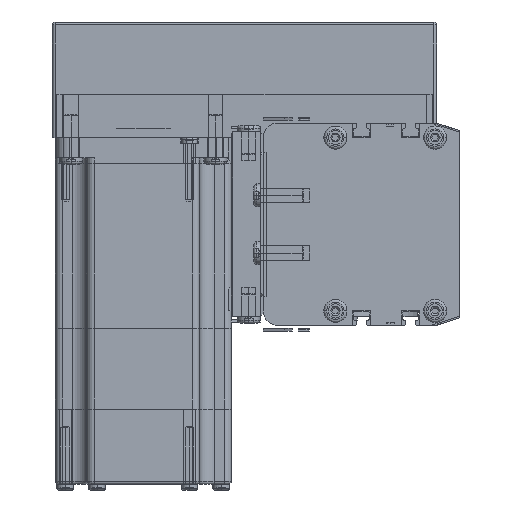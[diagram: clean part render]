
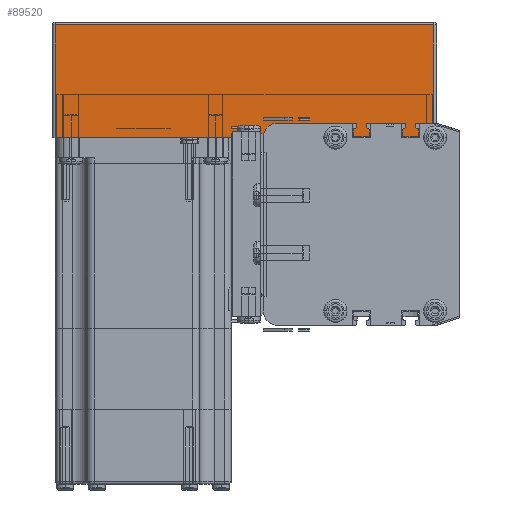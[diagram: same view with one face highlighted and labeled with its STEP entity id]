
A CAD part, left-side view. The second image highlights one B-rep face of the part: STEP entity #89520.
In plain terms, the highlighted planar face has unit normal (-1, 0, 0) as drawn and (0, -1, 0) by its records, which use the part's own axes.
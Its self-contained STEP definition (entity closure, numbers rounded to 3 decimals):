
#88210 = EDGE_CURVE ( 'NONE', #88334, #88336, #109941, .T. ) ;
#88334 = VERTEX_POINT ( 'NONE', #111607 ) ;
#88336 = VERTEX_POINT ( 'NONE', #111603 ) ;
#89217 = EDGE_CURVE ( 'NONE', #88336, #89507, #113626, .T. ) ;
#89392 = ORIENTED_EDGE ( 'NONE', *, *, #89532, .T. ) ;
#89435 = ORIENTED_EDGE ( 'NONE', *, *, #89217, .T. ) ;
#89468 = EDGE_LOOP ( 'NONE', ( #89529, #89392, #89524, #89435 ) ) ;
#89484 = EDGE_CURVE ( 'NONE', #89507, #89510, #114872, .T. ) ;
#89507 = VERTEX_POINT ( 'NONE', #115022 ) ;
#89510 = VERTEX_POINT ( 'NONE', #114873 ) ;
#89520 = ADVANCED_FACE ( 'NONE', ( #115005 ), #114886, .F. ) ;
#89524 = ORIENTED_EDGE ( 'NONE', *, *, #88210, .T. ) ;
#89529 = ORIENTED_EDGE ( 'NONE', *, *, #89484, .T. ) ;
#89532 = EDGE_CURVE ( 'NONE', #89510, #88334, #115184, .T. ) ;
#109936 = DIRECTION ( 'NONE',  ( 1., 0., 0. ) ) ;
#109938 = VECTOR ( 'NONE', #109936, 1000. ) ;
#109939 = CARTESIAN_POINT ( 'NONE',  ( 0., 0., 0. ) ) ;
#109941 = LINE ( 'NONE', #109939, #109938 ) ;
#111603 = CARTESIAN_POINT ( 'NONE',  ( 132., 0., 0. ) ) ;
#111607 = CARTESIAN_POINT ( 'NONE',  ( 1., 0., 0. ) ) ;
#113626 = LINE ( 'NONE', #113809, #113796 ) ;
#113794 = DIRECTION ( 'NONE',  ( 0., 0., 1. ) ) ;
#113796 = VECTOR ( 'NONE', #113794, 1000. ) ;
#113809 = CARTESIAN_POINT ( 'NONE',  ( 132., 0., 40. ) ) ;
#114828 = DIRECTION ( 'NONE',  ( 0., 0., 1. ) ) ;
#114829 = DIRECTION ( 'NONE',  ( 0., 1., 0. ) ) ;
#114833 = CARTESIAN_POINT ( 'NONE',  ( 1., 0., 40. ) ) ;
#114872 = LINE ( 'NONE', #114879, #114878 ) ;
#114873 = CARTESIAN_POINT ( 'NONE',  ( 1., 0., 39. ) ) ;
#114877 = DIRECTION ( 'NONE',  ( -1., 0., 0. ) ) ;
#114878 = VECTOR ( 'NONE', #114877, 1000. ) ;
#114879 = CARTESIAN_POINT ( 'NONE',  ( 0., 0., 39. ) ) ;
#114886 = PLANE ( 'NONE',  #115004 ) ;
#114926 = CARTESIAN_POINT ( 'NONE',  ( 0., 0., 40. ) ) ;
#115004 = AXIS2_PLACEMENT_3D ( 'NONE', #114926, #114829, #114828 ) ;
#115005 = FACE_OUTER_BOUND ( 'NONE', #89468, .T. ) ;
#115022 = CARTESIAN_POINT ( 'NONE',  ( 132., 0., 39. ) ) ;
#115174 = DIRECTION ( 'NONE',  ( 0., 0., -1. ) ) ;
#115176 = VECTOR ( 'NONE', #115174, 1000. ) ;
#115184 = LINE ( 'NONE', #114833, #115176 ) ;
